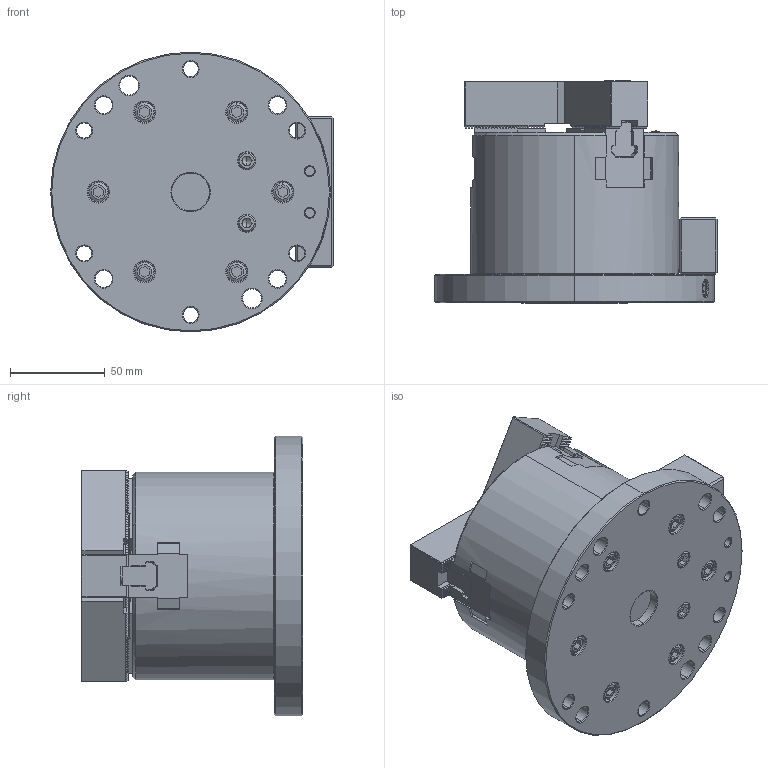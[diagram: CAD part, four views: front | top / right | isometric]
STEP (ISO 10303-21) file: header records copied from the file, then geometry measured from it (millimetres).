
FILE_DESCRIPTION (( 'STEP AP214' ), '1' );
FILE_NAME ('AS04_61P391915-2_OC.STEP', '2020-06-23T00:47:43', ( '' ), ( '' ), 'SwSTEP 2.0', 'SolidWorks 2017', '' );
FILE_SCHEMA (( 'AUTOMOTIVE_DESIGN' ));
Length unit declared in the file: millimetre
Products named in the file (5): Part1^61P330567 クミタテ; 61P400832-5_T僫僢僩; AS04_61P391915-2_OC; Bアナツキ M8×22; P31487-4_ソフトジョー
Assembly tree (13 placements, depth 2):
  AS04_61P391915-2_OC
    61P400832-5_T僫僢僩  x3
    P31487-4_ソフトジョー  x3
    Bアナツキ M8×22  x6
    Part1^61P330567 クミタテ
Bounding box: 149.5 x 117.2 x 148 mm (x, y, z)
Volume: 1068507.7 mm3; surface area: 137475.9 mm2
Topology: 17 solids, 46 shells, 3059 faces, 8204 edges, 5301 vertices
Faces by surface type: plane 2139, cylinder 523, cone 280, bspline 81, torus 32, sphere 4
Entity records: 80889 total; most frequent: CARTESIAN_POINT 17990, ORIENTED_EDGE 13310, DIRECTION 12493, EDGE_CURVE 6655, LINE 5031, VECTOR 5031, VERTEX_POINT 4300, AXIS2_PLACEMENT_3D 3731
